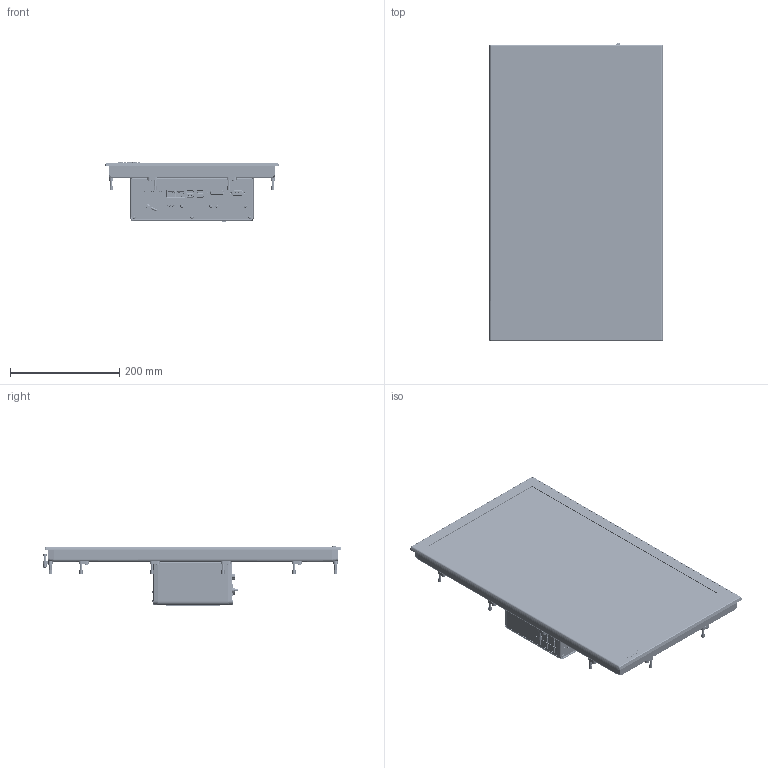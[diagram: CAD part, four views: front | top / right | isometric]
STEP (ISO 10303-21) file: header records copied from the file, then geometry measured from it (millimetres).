
FILE_DESCRIPTION(/* description */ (''),/* implementation_level */ '2;1');
FILE_NAME(/* name */ 'X:\0-inventor\0-3d-Teile\PC-Compo\solids\CP2xxx\0-Ausgabe\CP2221-M575.stp',/* time_stamp */ '2015-09-24T16:46:36+02:00',/* author */ ('christiankreuzer'),/* organization */ ('Design-AG'),/* preprocessor_version */ 'ST-DEVELOPER v16.1',/* originating_system */ 'Autodesk Inventor 2016',/* authorisation */ '');
FILE_SCHEMA (('AUTOMOTIVE_DESIGN { 1 0 10303 214 3 1 1 }'));
Products named in the file (1): CP2221-M575-Step
Bounding box: 318.7 x 546.5 x 108.2 mm (x, y, z)
Volume: 4642745.1 mm3; surface area: 631898.4 mm2
Topology: 4 solids, 65 shells, 8342 faces, 22011 edges, 14142 vertices
Faces by surface type: plane 5761, cylinder 2010, bspline 236, cone 222, torus 105, sphere 8
Full cylindrical faces by diameter (mm): 0.969 x5, 1 x4, 1.752 x2, 2.15 x2, 2.3 x2, 3 x15, 3.05 x4, 3.242 x12, 3.3 x4, 3.683 x4, 4 x28, 4.3 x1, 4.4 x12, 4.6 x12, 4.917 x12, 5.3 x12, 5.5 x12, 5.7 x13, 6 x13, 6.35 x7, 6.96 x4, 7 x13, 9 x2, 9.119 x4, 9.474 x8, 9.5 x4
Entity records: 271044 total; most frequent: CARTESIAN_POINT 57427, ORIENTED_EDGE 42810, DIRECTION 41221, EDGE_CURVE 21387, LINE 16107, VECTOR 16107, VERTEX_POINT 13986, AXIS2_PLACEMENT_3D 12557
